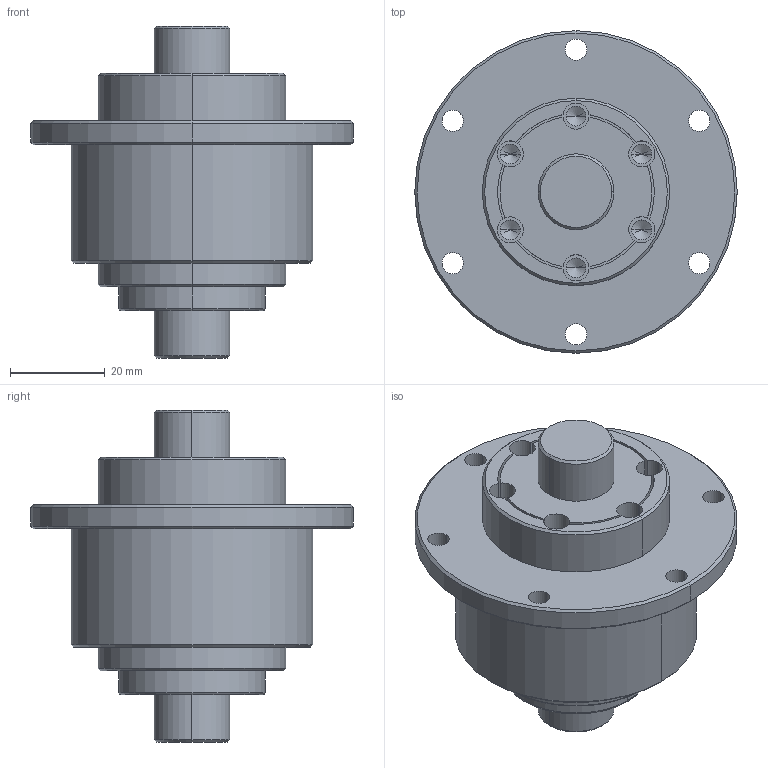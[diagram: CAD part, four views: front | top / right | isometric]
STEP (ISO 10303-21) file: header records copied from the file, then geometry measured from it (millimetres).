
FILE_DESCRIPTION (( 'STEP AP203' ), '1' );
FILE_NAME ('RLBF16.STEP', '2014-11-13T09:03:51', ( '' ), ( '' ), 'SwSTEP 2.0', 'SolidWorks 2014', '' );
FILE_SCHEMA (( 'CONFIG_CONTROL_DESIGN' ));
Length unit declared in the file: millimetre
Products named in the file (1): RLBF16
Bounding box: 68 x 68 x 70 mm (x, y, z)
Volume: 92603.7 mm3; surface area: 24322.6 mm2
Topology: 3 solids, 3 shells, 109 faces, 266 edges, 162 vertices
Faces by surface type: cylinder 70, cone 26, plane 11, torus 2
Entity records: 3275 total; most frequent: DIRECTION 632, CARTESIAN_POINT 526, ORIENTED_EDGE 508, AXIS2_PLACEMENT_3D 268, EDGE_CURVE 254, VERTEX_POINT 162, CIRCLE 158, EDGE_LOOP 136
